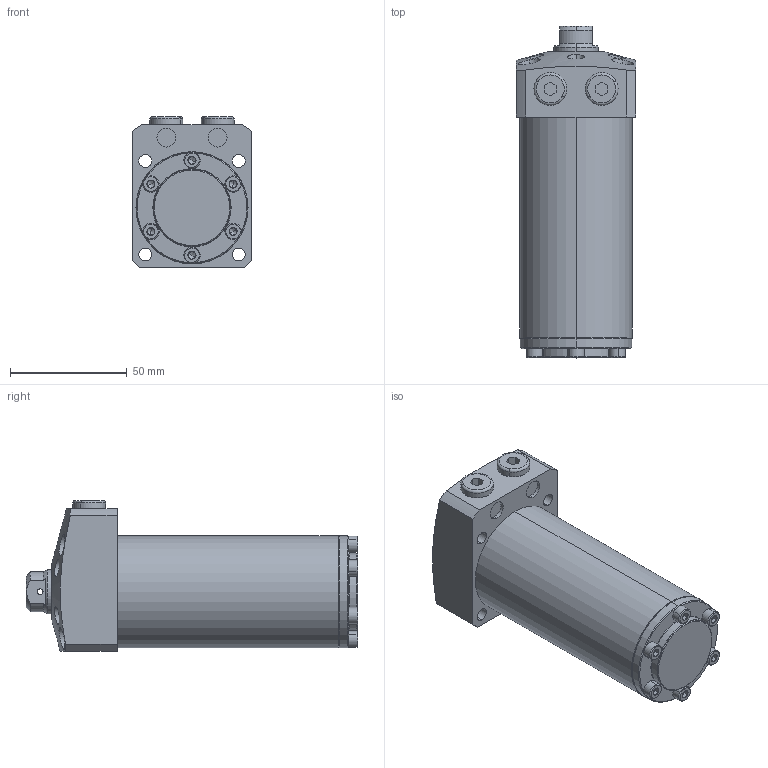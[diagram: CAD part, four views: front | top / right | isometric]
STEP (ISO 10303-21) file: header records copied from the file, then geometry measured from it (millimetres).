
FILE_DESCRIPTION (( 'STEP AP203' ), '1' );
FILE_NAME ('680480-CB-076.STEP', '2019-11-06T04:38:14', ( '微软用户' ), ( '微软中国' ), 'SwSTEP 2.0', 'SolidWorks 2014', '' );
FILE_SCHEMA (( 'CONFIG_CONTROL_DESIGN' ));
Length unit declared in the file: millimetre
Products named in the file (7): 葩璃 680480-CA-51-1^680480-CB-076; 葩璃 680480-CA-51-3^680480-CB-076; 葩璃 680480-CA-51-5^680480-CB-076; 葩璃 680480-CA-51-6^680480-CB-076; 680480-CB-076; 葩璃 680480-CA-51-2^680480-CB-076; 葩璃 680480-CA-51-4^680480-CB-076
Assembly tree (17 placements, depth 2):
  680480-CB-076
    葩璃 680480-CA-51-1^680480-CB-076
    葩璃 680480-CA-51-2^680480-CB-076
    葩璃 680480-CA-51-4^680480-CB-076
    葩璃 680480-CA-51-3^680480-CB-076  x6
    葩璃 680480-CA-51-5^680480-CB-076  x6
    葩璃 680480-CA-51-6^680480-CB-076  x2
Bounding box: 51 x 142 x 64.5 mm (x, y, z)
Volume: 260578.2 mm3; surface area: 50657.8 mm2
Topology: 17 solids, 17 shells, 553 faces, 1049 edges, 552 vertices
Faces by surface type: plane 236, cone 168, cylinder 133, torus 16
Entity records: 7716 total; most frequent: CARTESIAN_POINT 1902, DIRECTION 1097, ORIENTED_EDGE 902, AXIS2_PLACEMENT_3D 459, EDGE_CURVE 451, VERTEX_POINT 270, EDGE_LOOP 265, CIRCLE 222
